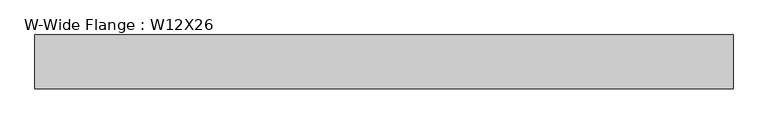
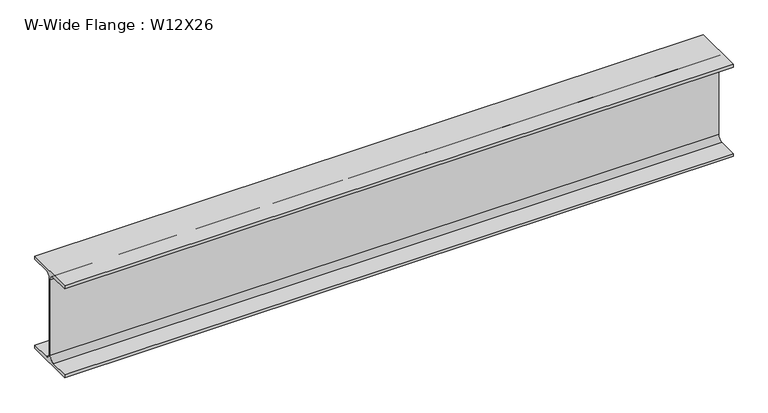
"""IFC4 building model written with IfcOpenShell, lengths in millimetres: beam geometry, W-Wide Flange : W12X26."""

from ifc_helpers import new_model, si_unit, point, frame, frame_2d, origin, place, context, project, spatial, polyline, circle_curve, trimmed, segment, composite_curve, outline, extrude, source, transform, mapped, element, save


def w_wide_flange_w12x26_dd29c176(model_context):
    return source(origin(), model_context, "Body", "SweptSolid", [
        extrude(outline(composite_curve([segment(polyline([(82.4011719, -145.5539063), (82.4011719, -155.178125), (-82.4011719, -155.178125), (-82.4011719, -145.5539063), (-20.2902344, -145.5539063)]), True, "CONTINUOUS"), segment(trimmed(circle_curve(frame_2d((-20.2902344, -128.190625)), 17.3632812), [point((-20.2902344, -145.5539063))], [point((-2.9269531, -128.190625))], True, "CARTESIAN"), True, "CONTINUOUS"), segment(polyline([(-2.9269531, -128.190625), (-2.9269531, 128.190625)]), True, "CONTINUOUS"), segment(trimmed(circle_curve(frame_2d((-20.2902344, 128.190625)), 17.3632812), [point((-2.9269531, 128.190625))], [point((-20.2902344, 145.5539062))], True, "CARTESIAN"), True, "CONTINUOUS"), segment(polyline([(-20.2902344, 145.5539062), (-82.4011719, 145.5539062), (-82.4011719, 155.178125), (82.4011719, 155.178125), (82.4011719, 145.5539062), (20.2902344, 145.5539062)]), True, "CONTINUOUS"), segment(trimmed(circle_curve(frame_2d((20.2902344, 128.190625)), 17.3632812), [point((20.2902344, 145.5539062))], [point((2.9269531, 128.190625))], True, "CARTESIAN"), True, "CONTINUOUS"), segment(polyline([(2.9269531, 128.190625), (2.9269531, -128.190625)]), True, "CONTINUOUS"), segment(trimmed(circle_curve(frame_2d((20.2902344, -128.190625)), 17.3632812), [point((2.9269531, -128.190625))], [point((20.2902344, -145.5539063))], True, "CARTESIAN"), True, "CONTINUOUS"), segment(polyline([(20.2902344, -145.5539063), (82.4011719, -145.5539063)]), True, "CONTINUOUS")], self_intersect=False)), frame((-1068.0068537, 0.0, 0.0), z_axis=(1.0, 0.0, 0.0), x_axis=(0.0, 1.0, 0.0)), (0.0, 0.0, 1.0), 2136.0137074),
    ])


if __name__ == "__main__":
    model = new_model("IFC4")
    model_context = context("Model", 3, world=origin())
    ifc_project = project(units=[si_unit("LENGTHUNIT", "METRE", prefix="MILLI")], contexts=[model_context])
    site = spatial("IfcSite", under=ifc_project)
    building = spatial("IfcBuilding", under=site)
    placement = place(None, origin())
    w_wide_flange_w12x26_shape = w_wide_flange_w12x26_dd29c176(model_context)
    element("IfcBeam", 1, ObjectType="W-Wide Flange : W12X26", at=placement, inside=building, context=model_context, shape_type="MappedRepresentation", body=[
        mapped(w_wide_flange_w12x26_shape, transform((0.0, 0.0, 0.0), x_axis=(1.0, 0.0, 0.0), y_axis=(0.0, 1.0, 0.0), z_axis=(0.0, 0.0, 1.0))),
    ])
    save(model, "model.ifc")
